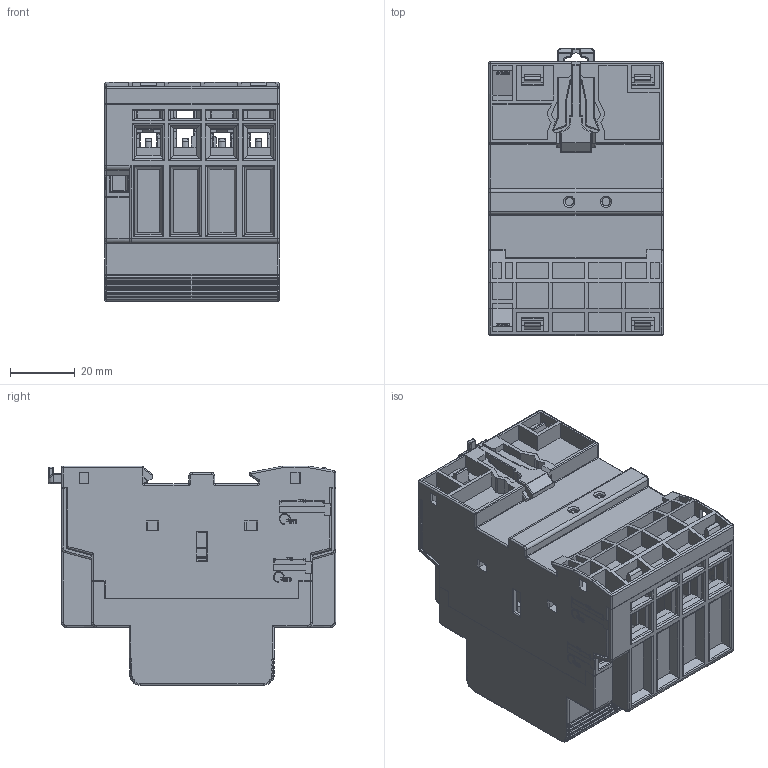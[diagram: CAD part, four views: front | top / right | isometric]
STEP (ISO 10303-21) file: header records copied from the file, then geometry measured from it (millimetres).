
FILE_DESCRIPTION((''),'2;1');
FILE_NAME('2TZD_401_6003_SW0001','2022-05-18T',('zhaoqingqing'),(''),'PRO/ENGINEER BY PARAMETRIC TECHNOLOGY CORPORATION, 2017170','PRO/ENGINEER BY PARAMETRIC TECHNOLOGY CORPORATION, 2017170','');
FILE_SCHEMA(('CONFIG_CONTROL_DESIGN'));
Products named in the file (1): 2TZD_401_6003_SW0001
Bounding box: 54 x 89.1 x 68.15 mm (x, y, z)
Volume: 78818.1 mm3; surface area: 108962.6 mm2
Topology: 9 solids, 9 shells, 5741 faces, 15666 edges, 9912 vertices
Faces by surface type: plane 3570, cylinder 1475, torus 252, sphere 165, bspline 108, cone 98, extrusion 73
Entity records: 198118 total; most frequent: CARTESIAN_POINT 53674, ORIENTED_EDGE 31316, DIRECTION 28372, EDGE_CURVE 15658, VECTOR 11654, LINE 11581, VERTEX_POINT 9912, AXIS2_PLACEMENT_3D 8359
